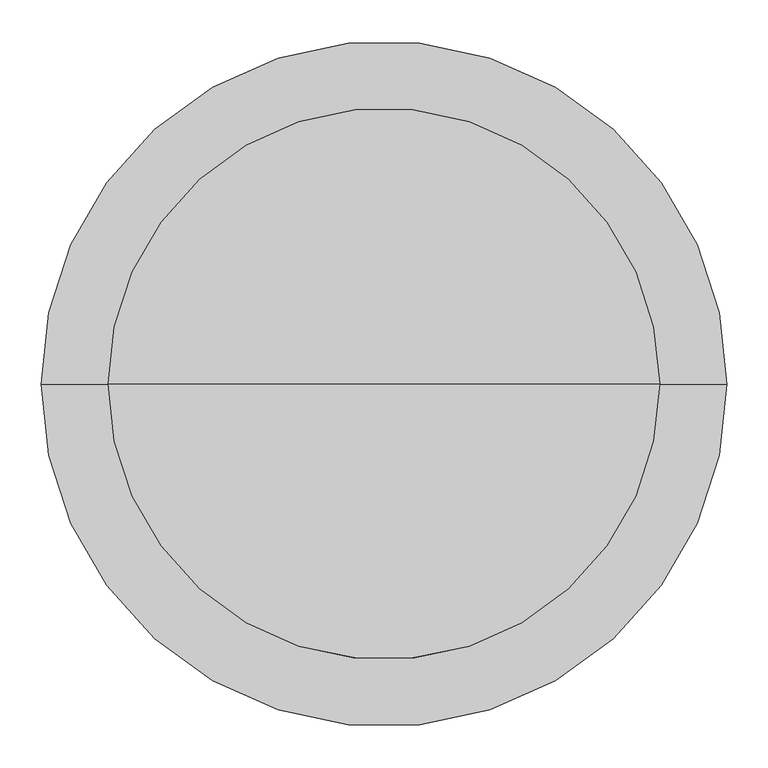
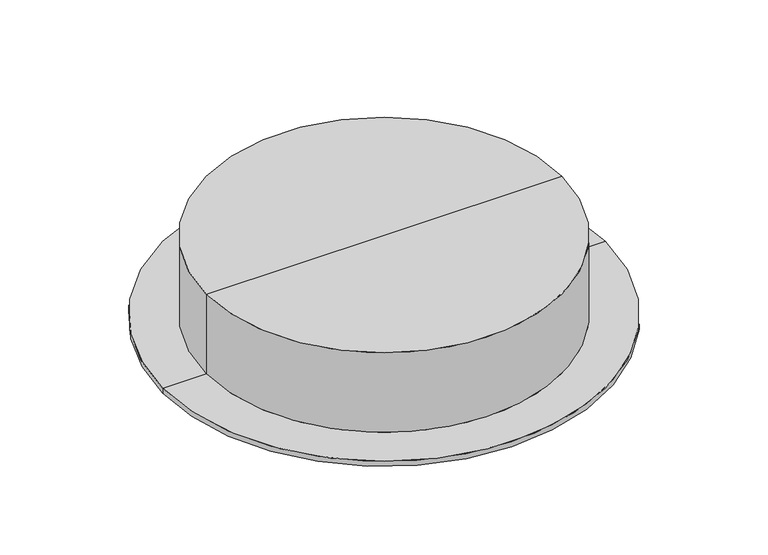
"""IFC4 building model written with IfcOpenShell, lengths in millimetres: pipe fitting geometry, Z_PIF_UN_Q-Bic_Plus_Cover_Iron_Wavin_(nested) : Q-Bic Plus Cover - iron."""

import ifcopenshell
import ifcopenshell.guid

model = None  # the IFC model being written
_history = None  # IfcOwnerHistory: only IFC2X3 demands one
_inside = {}  # id of a spatial element -> (the spatial element, [elements in it])
_under = {}  # id of a project, library or spatial element -> (it, [spatial elements below it])
_declared = {}  # id of a project -> (the project, [libraries it declares])
_typed = {}  # id of a type object -> (the type object, [elements of that type])
_made_of = {}  # id of a material, layer set ... -> (it, [elements and type objects made of it])


def new_model(schema):
    """Start an empty IFC model of exactly this schema.

    Asked for "IFC4X3", IfcOpenShell would pick the latest addendum, in which some entities
    have other attributes; the version numbers below select the first issue.
    IFC2X3 requires an IfcOwnerHistory on every rooted entity: one is made here for all.
    """
    global model, _history
    if schema == "IFC4X3":
        model = ifcopenshell.file(schema_version=(4, 3, 0, 0))
    else:
        model = ifcopenshell.file(schema=schema)
    _inside.clear()
    _under.clear()
    _declared.clear()
    _typed.clear()
    _made_of.clear()
    _history = None
    if model.schema == "IFC2X3":
        org = make("IfcOrganization", Name="unknown")
        user = make(
            "IfcPersonAndOrganization",
            ThePerson=make("IfcPerson", FamilyName="unknown"),
            TheOrganization=org,
        )
        app = make(
            "IfcApplication",
            ApplicationDeveloper=org,
            Version="unknown",
            ApplicationFullName="unknown",
            ApplicationIdentifier="unknown",
        )
        _history = make(
            "IfcOwnerHistory",
            OwningUser=user,
            OwningApplication=app,
            ChangeAction="ADDED",
            CreationDate=0,
        )
    return model


def make(cls, **values):
    """One entity of the class cls with the attributes given. An attribute that is None is left unset."""
    return model.create_entity(
        cls, **{name: value for name, value in values.items() if value is not None}
    )


def rooted(cls, **values):
    """An entity with a GlobalId (a new one), such as an element, a storey or a relation."""
    return make(cls, GlobalId=ifcopenshell.guid.new(), OwnerHistory=_history, **values)


def si_unit(unit_type, name, prefix=None):
    """IfcSIUnit, for example si_unit("LENGTHUNIT", "METRE", prefix="MILLI")."""
    return make("IfcSIUnit", UnitType=unit_type, Prefix=prefix, Name=name)


def assignment(units):
    """IfcUnitAssignment: the units of a project."""
    return None if units is None else make("IfcUnitAssignment", Units=units)


def point(xyz):
    """IfcCartesianPoint."""
    return None if xyz is None else make("IfcCartesianPoint", Coordinates=xyz)


def direction(xyz):
    """IfcDirection."""
    return None if xyz is None else make("IfcDirection", DirectionRatios=xyz)


def frame(location, z_axis=None, x_axis=None):
    """IfcAxis2Placement3D, a coordinate frame: its origin and axes. An axis left out is left unset."""
    return make(
        "IfcAxis2Placement3D",
        Location=point(location),
        Axis=direction(z_axis),
        RefDirection=direction(x_axis),
    )


def origin():
    """The frame at (0, 0, 0) with its axes left unset."""
    return frame((0.0, 0.0, 0.0))


def origin_with_axes():
    """The frame at (0, 0, 0) with the z axis (0, 0, 1) and the x axis (1, 0, 0) written out."""
    return frame((0.0, 0.0, 0.0), z_axis=(0.0, 0.0, 1.0), x_axis=(1.0, 0.0, 0.0))


def place(relative_to, where):
    """IfcLocalPlacement: puts the frame where relative to a parent placement (None: the world)."""
    return make(
        "IfcLocalPlacement", PlacementRelTo=relative_to, RelativePlacement=where
    )


def context(
    kind, dimensions, precision=None, world=None, true_north=None, identifier=None
):
    """IfcGeometricRepresentationContext, for example the 3D "Model" context."""
    return make(
        "IfcGeometricRepresentationContext",
        ContextIdentifier=identifier,
        ContextType=kind,
        CoordinateSpaceDimension=dimensions,
        Precision=precision,
        WorldCoordinateSystem=world,
        TrueNorth=true_north,
    )


def project(units=None, contexts=None):
    """IfcProject with its units and contexts."""
    return rooted(
        "IfcProject",
        Name="project",
        RepresentationContexts=contexts,
        UnitsInContext=assignment(units),
    )


def spatial(cls, under=None, at=None, **own):
    """A site, building, storey or space (cls), placed at a placement, below another one or the project."""
    s = rooted(cls, ObjectPlacement=at, **own)
    if under is not None:
        _under.setdefault(under.id(), (under, []))[1].append(s)
    return s


def circle_curve(where, radius):
    """IfcCircle in the frame where."""
    return make("IfcCircle", Position=where, Radius=radius)


def shape(context_of_items, identifier, shape_type, items):
    """IfcShapeRepresentation: the items that make up one representation, for example the "Body"."""
    return make(
        "IfcShapeRepresentation",
        ContextOfItems=context_of_items,
        RepresentationIdentifier=identifier,
        RepresentationType=shape_type,
        Items=items,
    )


def source(mapping_origin, context_of_items, identifier, shape_type, items):
    """IfcRepresentationMap: a shape defined once, which mapped items show again and again."""
    return make(
        "IfcRepresentationMap",
        MappingOrigin=mapping_origin,
        MappedRepresentation=shape(context_of_items, identifier, shape_type, items),
    )


def transform(
    local_origin,
    x_axis=None,
    y_axis=None,
    z_axis=None,
    scale=None,
    scale2=None,
    scale3=None,
    uniform=True,
):
    """IfcCartesianTransformationOperator3D, or its non-uniform kind. x_axis, y_axis, z_axis: its Axis1, 2, 3."""
    if uniform:
        return make(
            "IfcCartesianTransformationOperator3D",
            Axis1=direction(x_axis),
            Axis2=direction(y_axis),
            LocalOrigin=point(local_origin),
            Scale=scale,
            Axis3=direction(z_axis),
        )
    return make(
        "IfcCartesianTransformationOperator3DnonUniform",
        Axis1=direction(x_axis),
        Axis2=direction(y_axis),
        LocalOrigin=point(local_origin),
        Scale=scale,
        Axis3=direction(z_axis),
        Scale2=scale2,
        Scale3=scale3,
    )


def mapped(mapping_source, mapping_target):
    """IfcMappedItem: shows the shape of a source again, moved by a transform."""
    return make(
        "IfcMappedItem", MappingSource=mapping_source, MappingTarget=mapping_target
    )


def made_of(thing, what):
    """Note that an element or type object is made of a material, layer set ...; save() writes the relation."""
    if what is not None:
        _made_of.setdefault(what.id(), (what, []))[1].append(thing)
    return thing


def element(
    cls,
    number,
    at=None,
    inside=None,
    cuts=None,
    type_object=None,
    material=None,
    context=None,
    identifier="Body",
    shape_type=None,
    held_by="IfcProductDefinitionShape",
    body=None,
    shapes=None,
    **own,
):
    """One element of the class cls, such as IfcWall. Its Tag is "e" and its number.

    at: its placement. inside: the storey or other place that contains it. cuts: it is an
    opening in that element (IfcRelVoidsElement). A single representation is given by context,
    identifier, shape_type and body (its items); several are given by shapes. held_by: the class
    of the entity that holds the representations. save() writes the other relations.
    """
    e = rooted(cls, Tag="e%d" % number, ObjectPlacement=at, **own)
    if body is not None:
        shapes = [shape(context, identifier, shape_type, body)]
    if shapes is not None:
        e.Representation = make(held_by, Representations=shapes)
    if inside is not None:
        _inside.setdefault(inside.id(), (inside, []))[1].append(e)
    if cuts is not None:
        rooted(
            "IfcRelVoidsElement", RelatingBuildingElement=cuts, RelatedOpeningElement=e
        )
    if type_object is not None:
        _typed.setdefault(type_object.id(), (type_object, []))[1].append(e)
    return made_of(e, material)


def aggregate(whole, parts):
    """IfcRelAggregates: a whole, such as a stair, and the parts it consists of."""
    return rooted("IfcRelAggregates", RelatingObject=whole, RelatedObjects=parts)


def save(model, path):
    """Write the relations noted so far, then the file.

    IfcRelAggregates (storeys below a building ...), IfcRelContainedInSpatialStructure (elements
    in a storey), IfcRelDefinesByType, IfcRelAssociatesMaterial and IfcRelDeclares: one each for
    every whole, place, type object, material and project.
    """
    for whole, parts in _under.values():
        aggregate(whole, parts)
    for where, things in _inside.values():
        rooted(
            "IfcRelContainedInSpatialStructure",
            RelatedElements=things,
            RelatingStructure=where,
        )
    for kind, things in _typed.values():
        rooted("IfcRelDefinesByType", RelatedObjects=things, RelatingType=kind)
    for what, things in _made_of.values():
        rooted("IfcRelAssociatesMaterial", RelatedObjects=things, RelatingMaterial=what)
    for by, libraries in _declared.values():
        rooted("IfcRelDeclares", RelatingContext=by, RelatedDefinitions=libraries)
    model.write(path)


def plane_surface(at):
    """IfcPlane: the flat surface through the origin of the frame at, square to its z axis."""
    return make("IfcPlane", Position=at)


def cylinder_surface(at, radius):
    """IfcCylindricalSurface: all points at the distance radius from the z axis of the frame at."""
    return make("IfcCylindricalSurface", Position=at, Radius=radius)


def advanced_brep(points, edges, surfaces, faces):
    """IfcAdvancedBrep: a solid bounded by faces that lie on surfaces and meet in shared edges.

    An edge is (start, end): straight between two places in points (the first is 0);
    or (start, end, curve); or (start, end, curve, False) where it runs against its curve.
    A face is (place in surfaces, loops), or (place, loops, False) where it looks against
    its surface's normal. A loop lists edges by number (the first is 1), with a minus sign
    where the edge is run from its end to its start. The first loop is the outer one.
    """
    corners = [point(p) for p in points]
    vertices = [make("IfcVertexPoint", VertexGeometry=c) for c in corners]
    made = []
    for start, end, *more in edges:
        made.append(
            make(
                "IfcEdgeCurve",
                EdgeStart=vertices[start],
                EdgeEnd=vertices[end],
                EdgeGeometry=more[0] if more else make("IfcPolyline", Points=[corners[start], corners[end]]),
                SameSense=more[1] if len(more) > 1 else True,
            )
        )
    hull = []
    for where, loops, *sense in faces:
        bounds = []
        for j, loop in enumerate(loops):
            ring = [make("IfcOrientedEdge", EdgeElement=made[abs(k) - 1], Orientation=k > 0) for k in loop]
            bounds.append(
                make(
                    "IfcFaceOuterBound" if j == 0 else "IfcFaceBound",
                    Bound=make("IfcEdgeLoop", EdgeList=ring),
                    Orientation=True,
                )
            )
        hull.append(make("IfcAdvancedFace", Bounds=bounds, FaceSurface=surfaces[where], SameSense=sense[0] if sense else True))
    return make("IfcAdvancedBrep", Outer=make("IfcClosedShell", CfsFaces=hull))


def pipe_fitting_579b926a(model_context):
    return source(origin(), model_context, "Body", "AdvancedBrep", [
        advanced_brep(
        [(0.0, 0.0, 0.0), (334.0, 0.0, 0.0), (-334.0, 0.0, 0.0), (-415.5, 0.0, -168.0), (415.5, 0.0, -168.0), (0.0, 0.0, -168.0), (-415.5, 0.0, -158.0), (415.5, 0.0, -158.0), (-334.0, 0.0, -158.0), (334.0, 0.0, -158.0)],
        [
            (0, 1),
            (1, 2, circle_curve(origin_with_axes(), 334.0)),
            (2, 0),
            (2, 1, circle_curve(origin_with_axes(), 334.0)),
            (3, 4, circle_curve(frame((0.0, 0.0, -168.0), z_axis=(0.0, 0.0, -1.0), x_axis=(1.0, 0.0, 0.0)), 415.5)),
            (4, 5),
            (5, 3),
            (4, 3, circle_curve(frame((0.0, 0.0, -168.0), z_axis=(0.0, 0.0, -1.0), x_axis=(1.0, 0.0, 0.0)), 415.5)),
            (6, 7, circle_curve(frame((0.0, 0.0, -158.0), z_axis=(0.0, 0.0, -1.0), x_axis=(1.0, 0.0, 0.0)), 415.5)),
            (7, 4),
            (3, 6),
            (7, 6, circle_curve(frame((0.0, 0.0, -158.0), z_axis=(0.0, 0.0, -1.0), x_axis=(1.0, 0.0, 0.0)), 415.5)),
            (8, 9, circle_curve(frame((0.0, 0.0, -158.0), z_axis=(0.0, 0.0, -1.0), x_axis=(1.0, 0.0, 0.0)), 334.0)),
            (9, 7),
            (6, 8),
            (9, 8, circle_curve(frame((0.0, 0.0, -158.0), z_axis=(0.0, 0.0, -1.0), x_axis=(1.0, 0.0, 0.0)), 334.0)),
            (1, 9),
            (8, 2),
        ],
        [
            plane_surface(origin_with_axes()),
            plane_surface(frame((0.0, 0.0, -168.0), z_axis=(0.0, 0.0, -1.0), x_axis=(1.0, 0.0, 0.0))),
            cylinder_surface(origin_with_axes(), 415.5),
            plane_surface(frame((0.0, 0.0, -158.0), z_axis=(0.0, 0.0, 1.0), x_axis=(1.0, 0.0, 0.0))),
            cylinder_surface(origin_with_axes(), 334.0),
        ],
        [
            (0, [[1, 2, 3]]),
            (0, [[-3, 4, -1]]),
            (1, [[5, 6, 7]]),
            (1, [[8, -7, -6]]),
            (2, [[9, 10, -5, 11]]),
            (2, [[12, -11, -8, -10]]),
            (3, [[13, 14, -9, 15]]),
            (3, [[16, -15, -12, -14]]),
            (4, [[-2, 17, -13, 18]]),
            (4, [[-4, -18, -16, -17]]),
        ],
    ),
    ])


if __name__ == "__main__":
    model = new_model("IFC4")
    model_context = context("Model", 3, world=origin())
    ifc_project = project(units=[si_unit("LENGTHUNIT", "METRE", prefix="MILLI")], contexts=[model_context])
    site = spatial("IfcSite", under=ifc_project)
    building = spatial("IfcBuilding", under=site)
    placement = place(None, origin())
    pipe_fitting_shape = pipe_fitting_579b926a(model_context)
    element("IfcPipeFitting", 1, ObjectType="Z_PIF_UN_Q-Bic_Plus_Cover_Iron_Wavin_(nested) : Q-Bic Plus Cover - iron", at=placement, inside=building, context=model_context, shape_type="MappedRepresentation", body=[
        mapped(pipe_fitting_shape, transform((0.0, 0.0, 0.0), x_axis=(1.0, 0.0, 0.0), y_axis=(0.0, 1.0, 0.0), z_axis=(0.0, 0.0, 1.0))),
    ])
    save(model, "model.ifc")
